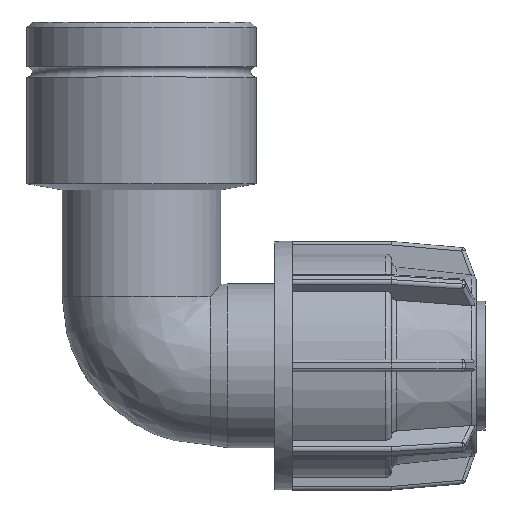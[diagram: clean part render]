
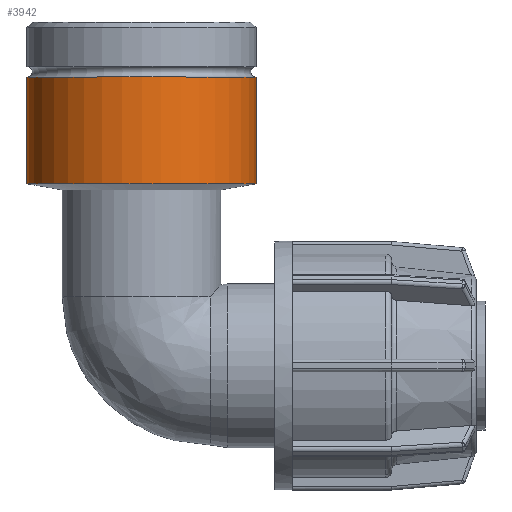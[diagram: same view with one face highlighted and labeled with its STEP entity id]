
A CAD part, top view. The second image highlights one B-rep face of the part: STEP entity #3942.
In plain terms, the highlighted cylindrical face has radius 15.676 mm (diameter 31.352 mm), a full revolution.
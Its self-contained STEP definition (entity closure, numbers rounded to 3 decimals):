
#795=CYLINDRICAL_SURFACE('',#4230,15.676);
#896=FACE_BOUND('',#1207,.T.);
#923=FACE_OUTER_BOUND('',#1206,.T.);
#1206=EDGE_LOOP('',(#2713));
#1207=EDGE_LOOP('',(#2714));
#1501=CIRCLE('',#4229,15.676);
#1502=CIRCLE('',#4231,15.676);
#1734=VERTEX_POINT('',#6045);
#1735=VERTEX_POINT('',#6048);
#2096=EDGE_CURVE('',#1734,#1734,#1501,.T.);
#2097=EDGE_CURVE('',#1735,#1735,#1502,.T.);
#2713=ORIENTED_EDGE('',*,*,#2096,.T.);
#2714=ORIENTED_EDGE('',*,*,#2097,.F.);
#3942=ADVANCED_FACE('',(#923,#896),#795,.T.);
#4229=AXIS2_PLACEMENT_3D('',#6046,#4757,#4758);
#4230=AXIS2_PLACEMENT_3D('',#6047,#4759,#4760);
#4231=AXIS2_PLACEMENT_3D('',#6049,#4761,#4762);
#4757=DIRECTION('center_axis',(0.,1.,0.));
#4758=DIRECTION('ref_axis',(1.,0.,0.));
#4759=DIRECTION('center_axis',(0.,1.,0.));
#4760=DIRECTION('ref_axis',(-1.,0.,0.));
#4761=DIRECTION('center_axis',(0.,1.,0.));
#4762=DIRECTION('ref_axis',(1.,0.,0.));
#6045=CARTESIAN_POINT('',(-15.676,24.9,0.));
#6046=CARTESIAN_POINT('Origin',(0.,24.9,0.));
#6047=CARTESIAN_POINT('Origin',(0.,32.188,0.));
#6048=CARTESIAN_POINT('',(-15.676,39.476,0.));
#6049=CARTESIAN_POINT('Origin',(0.,39.476,0.));
